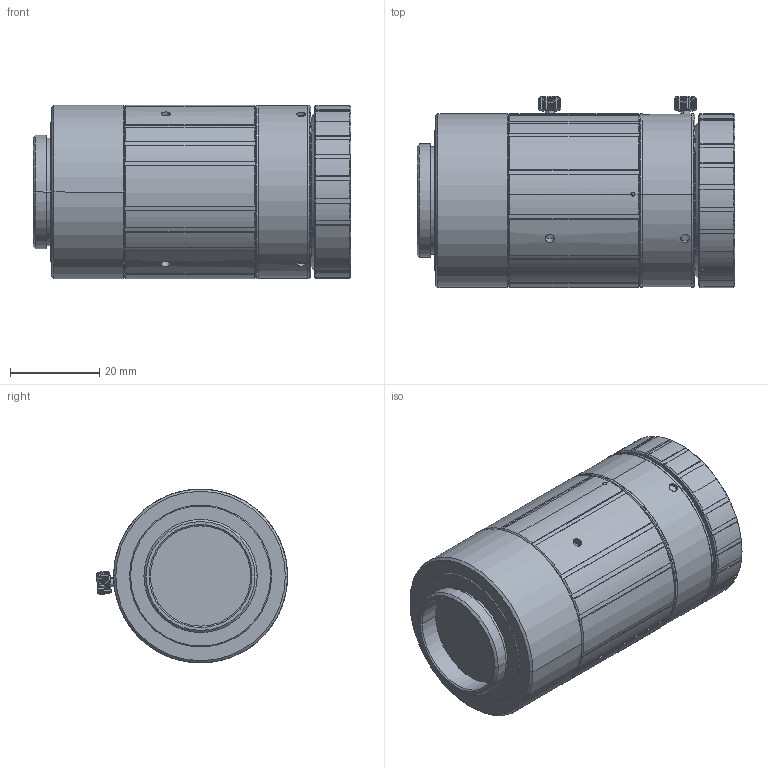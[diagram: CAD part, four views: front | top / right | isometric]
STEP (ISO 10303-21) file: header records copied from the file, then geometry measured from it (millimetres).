
FILE_DESCRIPTION(('CoCreate Modeling STEP Export'),'2;1');
FILE_NAME('CF25ZA-1S_outline.stp','2018-12-06T15:45:42',(''),(''),'CoCreate Modeling STEP processor for AP214 (Solid Model)','CoCreate Modeling 17.0 01-Apr-2010 (C) Parametric Technology GmbH','');
FILE_SCHEMA(('AUTOMOTIVE_DESIGN { 1 0 10303 214 1 1 1 1 }'));
Length unit declared in the file: millimetre
Products named in the file (2): CF25ZA-1S
Assembly tree (1 placements, depth 2):
  CF25ZA-1S
    CF25ZA-1S
Bounding box: 71.3 x 42.85 x 39 mm (x, y, z)
Volume: 70979.6 mm3; surface area: 16199.5 mm2
Topology: 1 solids, 2 shells, 413 faces, 1123 edges, 733 vertices
Faces by surface type: plane 226, cylinder 139, cone 44, revolution 2, sphere 2
Entity records: 14831 total; most frequent: CARTESIAN_POINT 4990, ORIENTED_EDGE 2238, DIRECTION 1692, EDGE_CURVE 1119, VERTEX_POINT 733, AXIS2_PLACEMENT_3D 580, VECTOR 531, LINE 531
